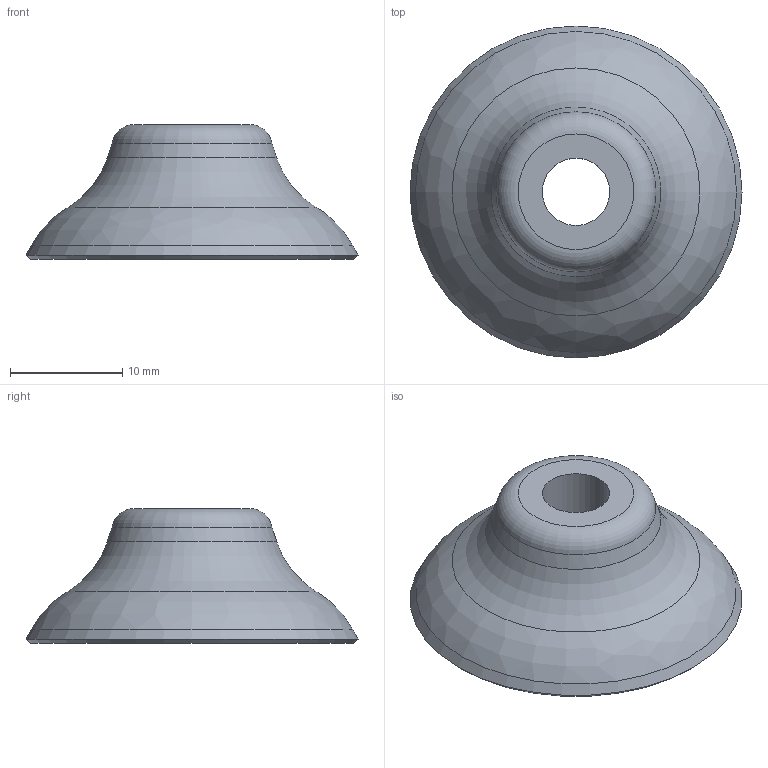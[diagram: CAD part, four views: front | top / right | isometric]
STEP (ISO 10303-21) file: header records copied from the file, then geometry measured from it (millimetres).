
FILE_DESCRIPTION(('STEP AP214'),'1');
FILE_NAME('CA.08.28.008.stp','2019-04-17T13:10:39',(' '),(' '),'Spatial InterOp 3D',' ',' ');
FILE_SCHEMA(('AUTOMOTIVE_DESIGN { 1 0 10303 214 1 1 1 1 }'));
Length unit declared in the file: millimetre
Products named in the file (1): CA.08.28.008
Bounding box: 29.57 x 29.57 x 12 mm (x, y, z)
Volume: 2616.1 mm3; surface area: 1986.4 mm2
Topology: 1 solids, 1 shells, 12 faces, 25 edges, 16 vertices
Faces by surface type: torus 4, plane 3, cone 2, cylinder 2, bspline 1
Full cylindrical faces by diameter (mm): 6 x1, 11 x1
Entity records: 413 total; most frequent: CARTESIAN_POINT 97, DIRECTION 46, EDGE_LOOP 24, ORIENTED_EDGE 24, AXIS2_PLACEMENT_3D 23, FACE_OUTER_BOUND 19, STYLED_ITEM 12, PRESENTATION_STYLE_ASSIGNMENT 12
